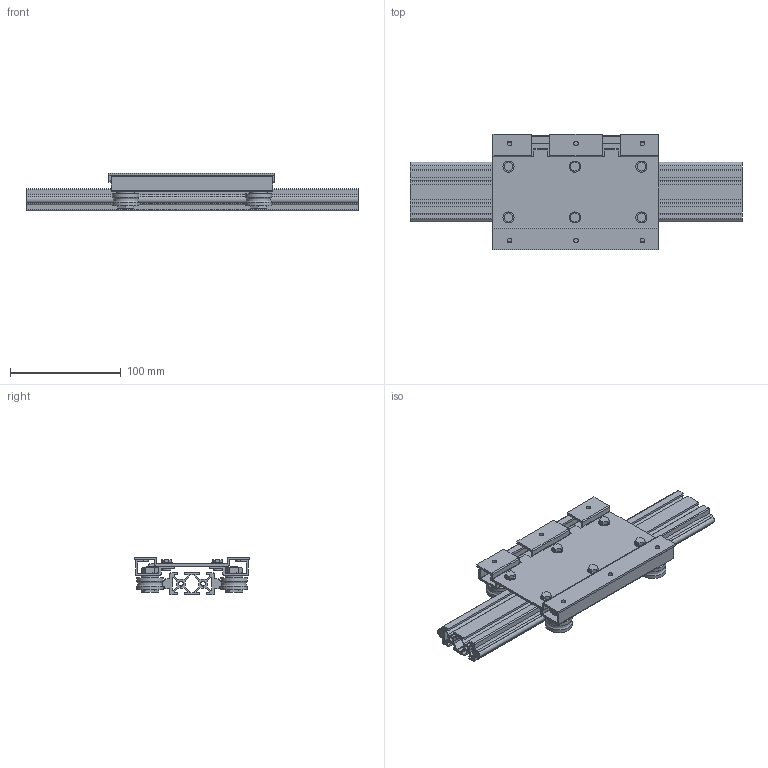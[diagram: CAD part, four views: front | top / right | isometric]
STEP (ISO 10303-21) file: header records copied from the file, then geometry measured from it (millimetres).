
FILE_DESCRIPTION((''),'2;1');
FILE_NAME('C:\Documents and Settings\土屋\My Documents\土屋移動用フォルダ\製品 (図面)\LSダウンロード用図面\新型キャリッジ\step形式(ダウンロード用)\LS4020BW.stp','2017-08-23T11:40:34',('y'),(''),'Autodesk Inventor 11','Autodesk Inventor 11','');
FILE_SCHEMA(('AUTOMOTIVE_DESIGN { 1 0 10303 214 1 1 1 1 }'));
Length unit declared in the file: millimetre
Products named in the file (3): LS4020BW; LS4020BWレール; LS4020BWキャリッジ
Assembly tree (2 placements, depth 2):
  LS4020BW
    LS4020BWレール
    LS4020BWキャリッジ
Bounding box: 300 x 104 x 34 mm (x, y, z)
Volume: 229119.4 mm3; surface area: 175912.9 mm2
Topology: 6 solids, 6 shells, 469 faces, 1218 edges, 790 vertices
Faces by surface type: plane 305, cylinder 90, cone 60, bspline 14
Full cylindrical faces by diameter (mm): 4.2 x2, 8 x10, 10 x6, 16 x4, 24 x8
Entity records: 14284 total; most frequent: CARTESIAN_POINT 3080, ORIENTED_EDGE 2296, DIRECTION 2232, EDGE_CURVE 1148, VECTOR 792, LINE 792, VERTEX_POINT 776, AXIS2_PLACEMENT_3D 720
